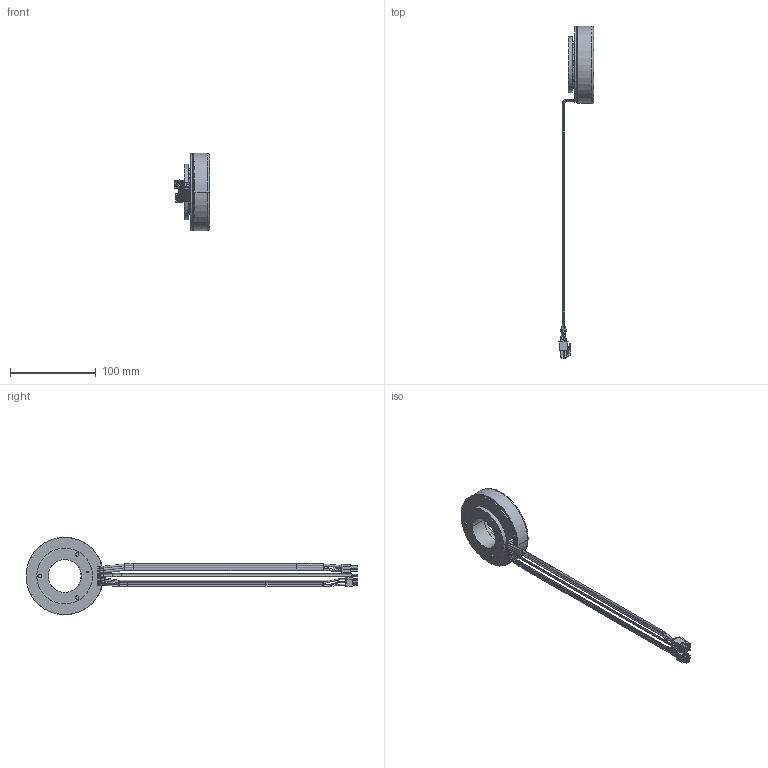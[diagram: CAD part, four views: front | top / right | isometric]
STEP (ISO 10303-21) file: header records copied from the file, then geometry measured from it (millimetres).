
FILE_DESCRIPTION((''),'2;1');
FILE_NAME('543673','2017-02-17T',('mmagpetk'),(''),'CREO PARAMETRIC BY PTC INC, 2016050','CREO PARAMETRIC BY PTC INC, 2016050','');
FILE_SCHEMA(('CONFIG_CONTROL_DESIGN'));
Length unit declared in the file: millimetre
Products named in the file (1): 543673
Bounding box: 40.8 x 386.1 x 90 mm (x, y, z)
Volume: 107855 mm3; surface area: 85632.1 mm2
Topology: 10 solids, 10 shells, 2228 faces, 5824 edges, 3625 vertices
Faces by surface type: plane 982, cylinder 960, torus 182, bspline 72, cone 28, sphere 4
Entity records: 120822 total; most frequent: CARTESIAN_POINT 32553, DIRECTION 11858, ORIENTED_EDGE 11640, PRESENTATION_STYLE_ASSIGNMENT 7753, STYLED_ITEM 5830, CURVE_STYLE 5820, EDGE_CURVE 5820, AXIS2_PLACEMENT_3D 4218
